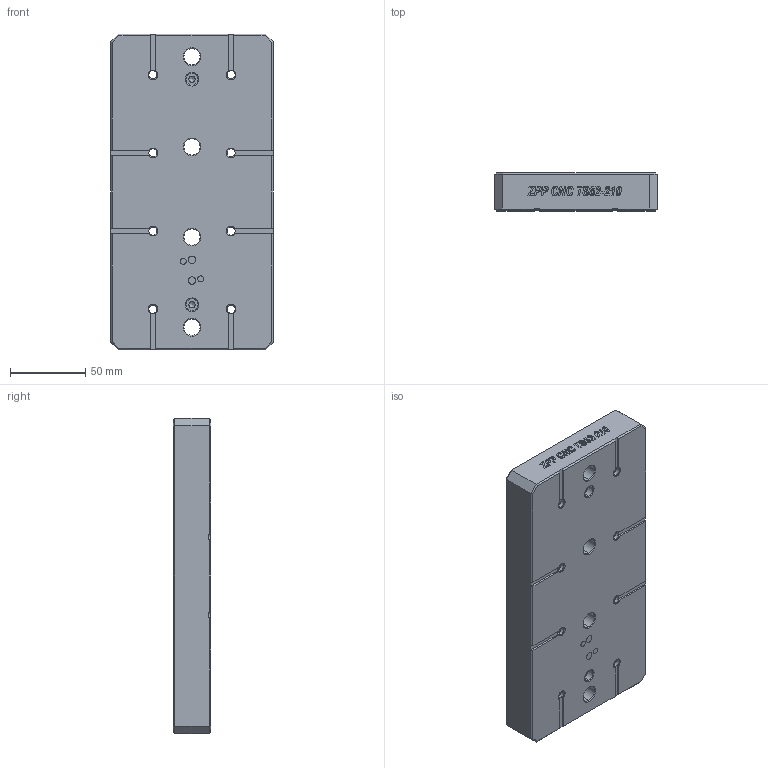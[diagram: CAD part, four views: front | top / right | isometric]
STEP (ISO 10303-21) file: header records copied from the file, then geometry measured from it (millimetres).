
FILE_DESCRIPTION((''),'2;1');
FILE_NAME('TS52-210','2024-07-17T19:58:52',('XF'),(''),'CREO PARAMETRIC BY PTC INC, 2022073','CREO PARAMETRIC BY PTC INC, 2022073','');
FILE_SCHEMA(('CONFIG_CONTROL_DESIGN'));
Length unit declared in the file: millimetre
Products named in the file (1): TS52-210
Bounding box: 108 x 25 x 210 mm (x, y, z)
Volume: 510208.4 mm3; surface area: 75875.2 mm2
Topology: 1 solids, 5 shells, 829 faces, 2233 edges, 1453 vertices
Faces by surface type: extrusion 310, plane 283, cylinder 122, cone 98, torus 16
Entity records: 26865 total; most frequent: CARTESIAN_POINT 7010, ORIENTED_EDGE 4394, DIRECTION 3321, EDGE_CURVE 2205, VECTOR 1475, VERTEX_POINT 1453, LINE 1165, B_SPLINE_CURVE_WITH_KNOTS 947
